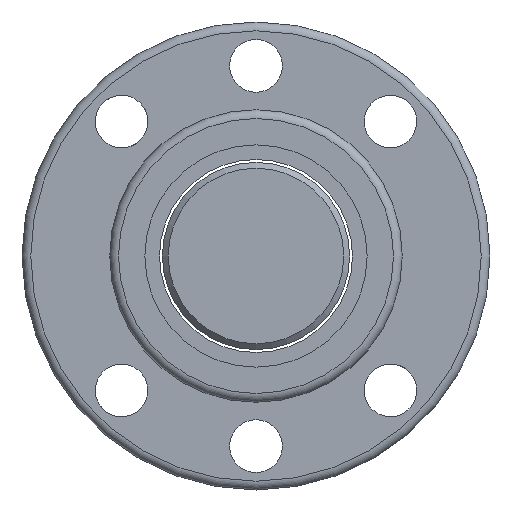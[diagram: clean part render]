
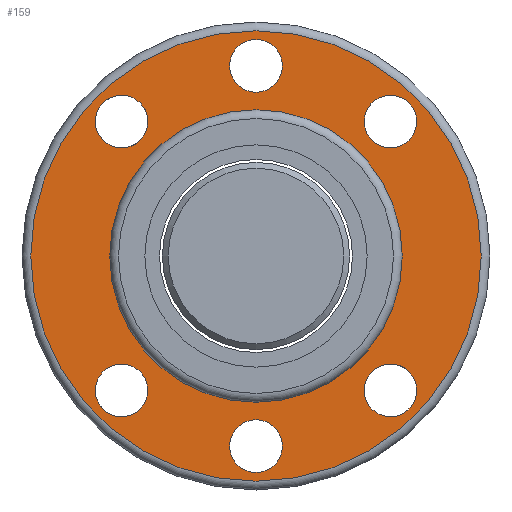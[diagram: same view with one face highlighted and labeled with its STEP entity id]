
A CAD part, left-side view. The second image highlights one B-rep face of the part: STEP entity #159.
In plain terms, the highlighted planar face has unit normal (-1, 0, 0).
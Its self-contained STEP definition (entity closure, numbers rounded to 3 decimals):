
#120=PLANE('',#667);
#135=FACE_OUTER_BOUND('',#322,.T.);
#159=ADVANCED_FACE('',(#230,#231,#232,#233,#234,#235,#236,#135),#120,.T.);
#230=FACE_BOUND('',#315,.T.);
#231=FACE_BOUND('',#316,.T.);
#232=FACE_BOUND('',#317,.T.);
#233=FACE_BOUND('',#318,.T.);
#234=FACE_BOUND('',#319,.T.);
#235=FACE_BOUND('',#320,.T.);
#236=FACE_BOUND('',#321,.T.);
#315=EDGE_LOOP('',(#413));
#316=EDGE_LOOP('',(#414));
#317=EDGE_LOOP('',(#415));
#318=EDGE_LOOP('',(#416));
#319=EDGE_LOOP('',(#417));
#320=EDGE_LOOP('',(#418));
#321=EDGE_LOOP('',(#419));
#322=EDGE_LOOP('',(#420));
#413=ORIENTED_EDGE('',*,*,#550,.F.);
#414=ORIENTED_EDGE('',*,*,#551,.F.);
#415=ORIENTED_EDGE('',*,*,#552,.F.);
#416=ORIENTED_EDGE('',*,*,#553,.F.);
#417=ORIENTED_EDGE('',*,*,#554,.F.);
#418=ORIENTED_EDGE('',*,*,#555,.F.);
#419=ORIENTED_EDGE('',*,*,#556,.T.);
#420=ORIENTED_EDGE('',*,*,#548,.F.);
#499=VERTEX_POINT('',#950);
#501=VERTEX_POINT('',#955);
#502=VERTEX_POINT('',#957);
#503=VERTEX_POINT('',#959);
#504=VERTEX_POINT('',#961);
#505=VERTEX_POINT('',#963);
#506=VERTEX_POINT('',#965);
#507=VERTEX_POINT('',#967);
#548=EDGE_CURVE('',#499,#499,#597,.T.);
#550=EDGE_CURVE('',#501,#501,#599,.T.);
#551=EDGE_CURVE('',#502,#502,#600,.T.);
#552=EDGE_CURVE('',#503,#503,#601,.T.);
#553=EDGE_CURVE('',#504,#504,#602,.T.);
#554=EDGE_CURVE('',#505,#505,#603,.T.);
#555=EDGE_CURVE('',#506,#506,#604,.T.);
#556=EDGE_CURVE('',#507,#507,#605,.T.);
#597=CIRCLE('',#657,38.5);
#599=CIRCLE('',#660,4.5);
#600=CIRCLE('',#661,4.5);
#601=CIRCLE('',#662,4.5);
#602=CIRCLE('',#663,4.5);
#603=CIRCLE('',#664,4.5);
#604=CIRCLE('',#665,4.5);
#605=CIRCLE('',#666,25.);
#657=AXIS2_PLACEMENT_3D('',#949,#772,#773);
#660=AXIS2_PLACEMENT_3D('',#954,#778,#779);
#661=AXIS2_PLACEMENT_3D('',#956,#780,#781);
#662=AXIS2_PLACEMENT_3D('',#958,#782,#783);
#663=AXIS2_PLACEMENT_3D('',#960,#784,#785);
#664=AXIS2_PLACEMENT_3D('',#962,#786,#787);
#665=AXIS2_PLACEMENT_3D('',#964,#788,#789);
#666=AXIS2_PLACEMENT_3D('',#966,#790,#791);
#667=AXIS2_PLACEMENT_3D('',#968,#792,#793);
#772=DIRECTION('',(1.,0.,0.));
#773=DIRECTION('',(0.,1.,0.));
#778=DIRECTION('',(-1.,0.,0.));
#779=DIRECTION('',(0.,-1.,0.));
#780=DIRECTION('',(-1.,0.,0.));
#781=DIRECTION('',(0.,-1.,0.));
#782=DIRECTION('',(-1.,0.,0.));
#783=DIRECTION('',(0.,-1.,0.));
#784=DIRECTION('',(-1.,0.,0.));
#785=DIRECTION('',(0.,-1.,0.));
#786=DIRECTION('',(-1.,0.,0.));
#787=DIRECTION('',(0.,-1.,0.));
#788=DIRECTION('',(-1.,0.,0.));
#789=DIRECTION('',(0.,-1.,0.));
#790=DIRECTION('',(1.,0.,0.));
#791=DIRECTION('',(0.,1.,0.));
#792=DIRECTION('',(-1.,0.,0.));
#793=DIRECTION('',(0.,-1.,0.));
#949=CARTESIAN_POINT('',(-27.,0.,0.));
#950=CARTESIAN_POINT('',(-27.,38.5,0.));
#954=CARTESIAN_POINT('',(-27.,22.981,22.981));
#955=CARTESIAN_POINT('',(-27.,18.481,22.981));
#956=CARTESIAN_POINT('',(-27.,22.981,-22.981));
#957=CARTESIAN_POINT('',(-27.,18.481,-22.981));
#958=CARTESIAN_POINT('',(-27.,0.,-32.5));
#959=CARTESIAN_POINT('',(-27.,-4.5,-32.5));
#960=CARTESIAN_POINT('',(-27.,-22.981,-22.981));
#961=CARTESIAN_POINT('',(-27.,-27.481,-22.981));
#962=CARTESIAN_POINT('',(-27.,-22.981,22.981));
#963=CARTESIAN_POINT('',(-27.,-27.481,22.981));
#964=CARTESIAN_POINT('',(-27.,0.,32.5));
#965=CARTESIAN_POINT('',(-27.,-4.5,32.5));
#966=CARTESIAN_POINT('',(-27.,0.,0.));
#967=CARTESIAN_POINT('',(-27.,25.,0.));
#968=CARTESIAN_POINT('',(-27.,31.75,0.));
